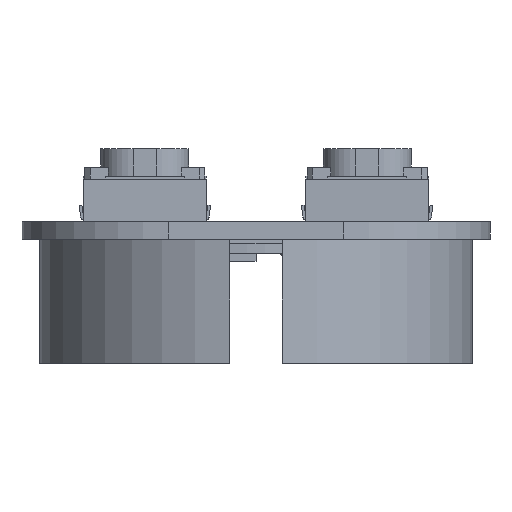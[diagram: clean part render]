
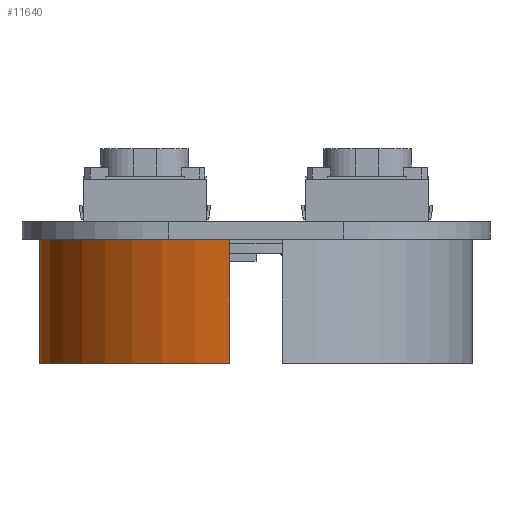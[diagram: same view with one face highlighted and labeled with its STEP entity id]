
A CAD part, front view. The second image highlights one B-rep face of the part: STEP entity #11640.
In plain terms, the highlighted cylindrical face has radius 7.4 mm (diameter 14.8 mm), a partial arc.
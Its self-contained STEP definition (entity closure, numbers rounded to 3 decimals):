
#10264 = PLANE('',#10265);
#10265 = AXIS2_PLACEMENT_3D('',#10266,#10267,#10268);
#10266 = CARTESIAN_POINT('',(20.619,26.804,-4.25));
#10267 = DIRECTION('',(0.,0.,1.));
#10268 = DIRECTION('',(-1.,0.,0.));
#10559 = VERTEX_POINT('',#10560);
#10560 = CARTESIAN_POINT('',(20.025,25.178,-4.25));
#10579 = CYLINDRICAL_SURFACE('',#10580,0.3);
#10580 = AXIS2_PLACEMENT_3D('',#10581,#10582,#10583);
#10581 = CARTESIAN_POINT('',(19.823,25.4,-4.25));
#10582 = DIRECTION('',(0.,0.,-1.));
#10583 = DIRECTION('',(1.,0.,0.));
#10590 = EDGE_CURVE('',#10559,#10591,#10593,.T.);
#10591 = VERTEX_POINT('',#10592);
#10592 = CARTESIAN_POINT('',(24.1,12.355,-4.25));
#10593 = SURFACE_CURVE('',#10594,(#10599,#10606),.PCURVE_S1.);
#10594 = CIRCLE('',#10595,7.4);
#10595 = AXIS2_PLACEMENT_3D('',#10596,#10597,#10598);
#10596 = CARTESIAN_POINT('',(25.,19.7,-4.25));
#10597 = DIRECTION('',(0.,0.,1.));
#10598 = DIRECTION('',(-0.672,0.74,0.
    ));
#10599 = PCURVE('',#10264,#10600);
#10600 = DEFINITIONAL_REPRESENTATION('',(#10601),#10605);
#10601 = CIRCLE('',#10602,7.4);
#10602 = AXIS2_PLACEMENT_2D('',#10603,#10604);
#10603 = CARTESIAN_POINT('',(-4.381,7.104));
#10604 = DIRECTION('',(0.672,-0.74));
#10605 = ( GEOMETRIC_REPRESENTATION_CONTEXT(2) 
PARAMETRIC_REPRESENTATION_CONTEXT() REPRESENTATION_CONTEXT('2D SPACE',''
  ) );
#10606 = PCURVE('',#10607,#10612);
#10607 = CYLINDRICAL_SURFACE('',#10608,7.4);
#10608 = AXIS2_PLACEMENT_3D('',#10609,#10610,#10611);
#10609 = CARTESIAN_POINT('',(25.,19.7,0.));
#10610 = DIRECTION('',(0.,0.,1.));
#10611 = DIRECTION('',(1.,0.,0.));
#10612 = DEFINITIONAL_REPRESENTATION('',(#10613),#10617);
#10613 = LINE('',#10614,#10615);
#10614 = CARTESIAN_POINT('',(2.308,-4.25));
#10615 = VECTOR('',#10616,1.);
#10616 = DIRECTION('',(1.,-0.));
#10617 = ( GEOMETRIC_REPRESENTATION_CONTEXT(2) 
PARAMETRIC_REPRESENTATION_CONTEXT() REPRESENTATION_CONTEXT('2D SPACE',''
  ) );
#10635 = PLANE('',#10636);
#10636 = AXIS2_PLACEMENT_3D('',#10637,#10638,#10639);
#10637 = CARTESIAN_POINT('',(24.1,12.355,-4.25));
#10638 = DIRECTION('',(-1.,0.,0.));
#10639 = DIRECTION('',(0.,1.,0.));
#10885 = PLANE('',#10886);
#10886 = AXIS2_PLACEMENT_3D('',#10887,#10888,#10889);
#10887 = CARTESIAN_POINT('',(25.,19.7,0.));
#10888 = DIRECTION('',(0.,0.,-1.));
#10889 = DIRECTION('',(1.,0.,0.));
#11511 = EDGE_CURVE('',#10591,#11512,#11514,.T.);
#11512 = VERTEX_POINT('',#11513);
#11513 = CARTESIAN_POINT('',(24.1,12.355,-0.15));
#11514 = SURFACE_CURVE('',#11515,(#11519,#11526),.PCURVE_S1.);
#11515 = LINE('',#11516,#11517);
#11516 = CARTESIAN_POINT('',(24.1,12.355,0.));
#11517 = VECTOR('',#11518,1.);
#11518 = DIRECTION('',(0.,0.,1.));
#11519 = PCURVE('',#10635,#11520);
#11520 = DEFINITIONAL_REPRESENTATION('',(#11521),#11525);
#11521 = LINE('',#11522,#11523);
#11522 = CARTESIAN_POINT('',(0.,-4.25));
#11523 = VECTOR('',#11524,1.);
#11524 = DIRECTION('',(0.,-1.));
#11525 = ( GEOMETRIC_REPRESENTATION_CONTEXT(2) 
PARAMETRIC_REPRESENTATION_CONTEXT() REPRESENTATION_CONTEXT('2D SPACE',''
  ) );
#11526 = PCURVE('',#10607,#11527);
#11527 = DEFINITIONAL_REPRESENTATION('',(#11528),#11531);
#11528 = B_SPLINE_CURVE_WITH_KNOTS('',1,(#11529,#11530),.UNSPECIFIED.,
  .F.,.F.,(2,2),(-19.606,15.356),
  .PIECEWISE_BEZIER_KNOTS.);
#11529 = CARTESIAN_POINT('',(4.59,-19.606));
#11530 = CARTESIAN_POINT('',(4.59,15.356));
#11531 = ( GEOMETRIC_REPRESENTATION_CONTEXT(2) 
PARAMETRIC_REPRESENTATION_CONTEXT() REPRESENTATION_CONTEXT('2D SPACE',''
  ) );
#11640 = ADVANCED_FACE('',(#11641),#10607,.T.);
#11641 = FACE_BOUND('',#11642,.T.);
#11642 = EDGE_LOOP('',(#11643,#11670,#11694,#11714,#11715));
#11643 = ORIENTED_EDGE('',*,*,#11644,.T.);
#11644 = EDGE_CURVE('',#11512,#11645,#11647,.T.);
#11645 = VERTEX_POINT('',#11646);
#11646 = CARTESIAN_POINT('',(24.1,12.355,0.));
#11647 = SURFACE_CURVE('',#11648,(#11652,#11658),.PCURVE_S1.);
#11648 = LINE('',#11649,#11650);
#11649 = CARTESIAN_POINT('',(24.1,12.355,0.));
#11650 = VECTOR('',#11651,1.);
#11651 = DIRECTION('',(0.,0.,1.));
#11652 = PCURVE('',#10607,#11653);
#11653 = DEFINITIONAL_REPRESENTATION('',(#11654),#11657);
#11654 = B_SPLINE_CURVE_WITH_KNOTS('',1,(#11655,#11656),.UNSPECIFIED.,
  .F.,.F.,(2,2),(-19.606,15.356),
  .PIECEWISE_BEZIER_KNOTS.);
#11655 = CARTESIAN_POINT('',(4.59,-19.606));
#11656 = CARTESIAN_POINT('',(4.59,15.356));
#11657 = ( GEOMETRIC_REPRESENTATION_CONTEXT(2) 
PARAMETRIC_REPRESENTATION_CONTEXT() REPRESENTATION_CONTEXT('2D SPACE',''
  ) );
#11658 = PCURVE('',#11659,#11664);
#11659 = PLANE('',#11660);
#11660 = AXIS2_PLACEMENT_3D('',#11661,#11662,#11663);
#11661 = CARTESIAN_POINT('',(24.1,13.364,0.));
#11662 = DIRECTION('',(-1.,0.,0.));
#11663 = DIRECTION('',(0.,-1.,0.));
#11664 = DEFINITIONAL_REPRESENTATION('',(#11665),#11669);
#11665 = LINE('',#11666,#11667);
#11666 = CARTESIAN_POINT('',(1.009,0.));
#11667 = VECTOR('',#11668,1.);
#11668 = DIRECTION('',(0.,1.));
#11669 = ( GEOMETRIC_REPRESENTATION_CONTEXT(2) 
PARAMETRIC_REPRESENTATION_CONTEXT() REPRESENTATION_CONTEXT('2D SPACE',''
  ) );
#11670 = ORIENTED_EDGE('',*,*,#11671,.T.);
#11671 = EDGE_CURVE('',#11645,#11672,#11674,.T.);
#11672 = VERTEX_POINT('',#11673);
#11673 = CARTESIAN_POINT('',(20.025,25.178,
    0.));
#11674 = SURFACE_CURVE('',#11675,(#11680,#11687),.PCURVE_S1.);
#11675 = CIRCLE('',#11676,7.4);
#11676 = AXIS2_PLACEMENT_3D('',#11677,#11678,#11679);
#11677 = CARTESIAN_POINT('',(25.,19.7,0.));
#11678 = DIRECTION('',(0.,0.,-1.));
#11679 = DIRECTION('',(-0.122,-0.993,
    0.));
#11680 = PCURVE('',#10607,#11681);
#11681 = DEFINITIONAL_REPRESENTATION('',(#11682),#11686);
#11682 = LINE('',#11683,#11684);
#11683 = CARTESIAN_POINT('',(4.59,0.));
#11684 = VECTOR('',#11685,1.);
#11685 = DIRECTION('',(-1.,0.));
#11686 = ( GEOMETRIC_REPRESENTATION_CONTEXT(2) 
PARAMETRIC_REPRESENTATION_CONTEXT() REPRESENTATION_CONTEXT('2D SPACE',''
  ) );
#11687 = PCURVE('',#10885,#11688);
#11688 = DEFINITIONAL_REPRESENTATION('',(#11689),#11693);
#11689 = CIRCLE('',#11690,7.4);
#11690 = AXIS2_PLACEMENT_2D('',#11691,#11692);
#11691 = CARTESIAN_POINT('',(0.,0.));
#11692 = DIRECTION('',(-0.122,0.993));
#11693 = ( GEOMETRIC_REPRESENTATION_CONTEXT(2) 
PARAMETRIC_REPRESENTATION_CONTEXT() REPRESENTATION_CONTEXT('2D SPACE',''
  ) );
#11694 = ORIENTED_EDGE('',*,*,#11695,.T.);
#11695 = EDGE_CURVE('',#11672,#10559,#11696,.T.);
#11696 = SURFACE_CURVE('',#11697,(#11701,#11707),.PCURVE_S1.);
#11697 = LINE('',#11698,#11699);
#11698 = CARTESIAN_POINT('',(20.025,25.178,
    0.));
#11699 = VECTOR('',#11700,1.);
#11700 = DIRECTION('',(0.,0.,-1.));
#11701 = PCURVE('',#10607,#11702);
#11702 = DEFINITIONAL_REPRESENTATION('',(#11703),#11706);
#11703 = B_SPLINE_CURVE_WITH_KNOTS('',1,(#11704,#11705),.UNSPECIFIED.,
  .F.,.F.,(2,2),(0.,4.25),.PIECEWISE_BEZIER_KNOTS.);
#11704 = CARTESIAN_POINT('',(2.308,0.));
#11705 = CARTESIAN_POINT('',(2.308,-4.25));
#11706 = ( GEOMETRIC_REPRESENTATION_CONTEXT(2) 
PARAMETRIC_REPRESENTATION_CONTEXT() REPRESENTATION_CONTEXT('2D SPACE',''
  ) );
#11707 = PCURVE('',#10579,#11708);
#11708 = DEFINITIONAL_REPRESENTATION('',(#11709),#11713);
#11709 = LINE('',#11710,#11711);
#11710 = CARTESIAN_POINT('',(7.117,-4.25));
#11711 = VECTOR('',#11712,1.);
#11712 = DIRECTION('',(0.,1.));
#11713 = ( GEOMETRIC_REPRESENTATION_CONTEXT(2) 
PARAMETRIC_REPRESENTATION_CONTEXT() REPRESENTATION_CONTEXT('2D SPACE',''
  ) );
#11714 = ORIENTED_EDGE('',*,*,#10590,.T.);
#11715 = ORIENTED_EDGE('',*,*,#11511,.T.);
